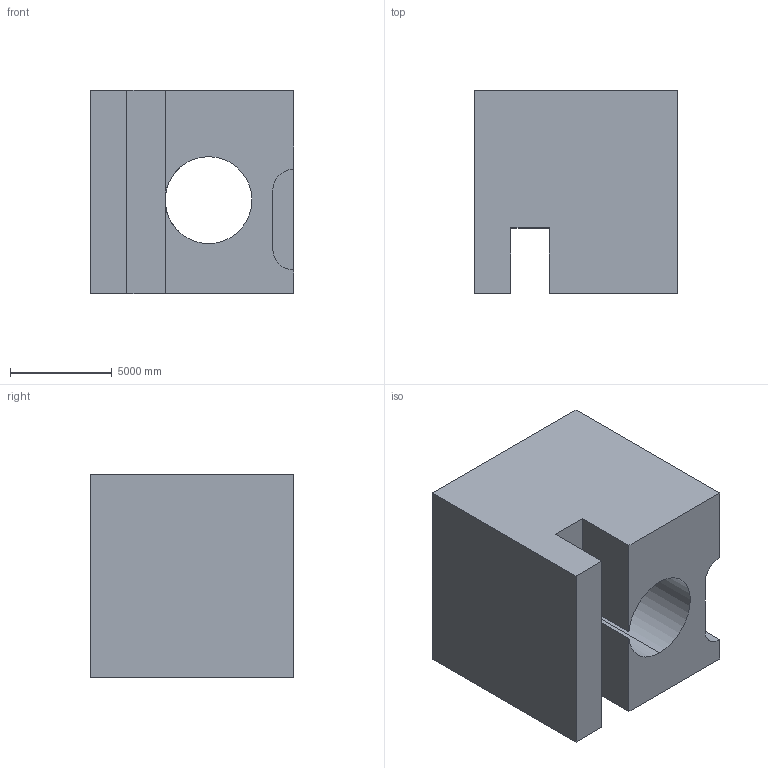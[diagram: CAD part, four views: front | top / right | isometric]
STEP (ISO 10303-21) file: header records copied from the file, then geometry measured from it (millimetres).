
FILE_DESCRIPTION (( 'STEP AP203' ), '1' );
FILE_NAME ('1290.STEP', '2022-08-18T13:35:20', ( 'user' ), ( '' ), 'SwSTEP 2.0', 'SolidWorks 2021', '' );
FILE_SCHEMA (( 'CONFIG_CONTROL_DESIGN' ));
Length unit declared in the file: centimetre
Products named in the file (1): 1290
Bounding box: 10000 x 10000 x 10000 mm (x, y, z)
Volume: 784024131884.6 mm3; surface area: 758372863.8 mm2
Topology: 1 solids, 1 shells, 17 faces, 48 edges, 32 vertices
Faces by surface type: plane 13, cylinder 4
Entity records: 633 total; most frequent: CARTESIAN_POINT 98, ORIENTED_EDGE 96, DIRECTION 94, EDGE_CURVE 48, VECTOR 38, LINE 38, VERTEX_POINT 32, AXIS2_PLACEMENT_3D 28
